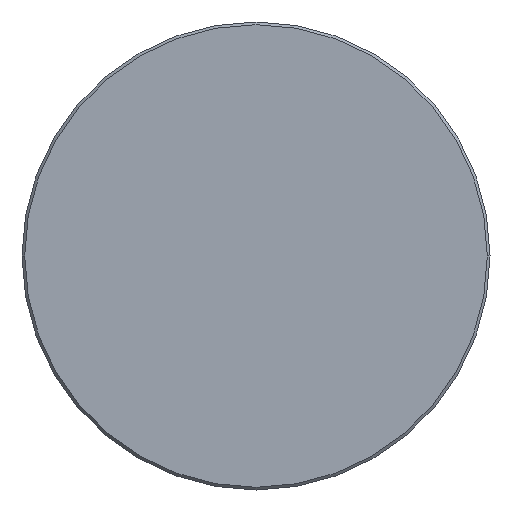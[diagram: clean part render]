
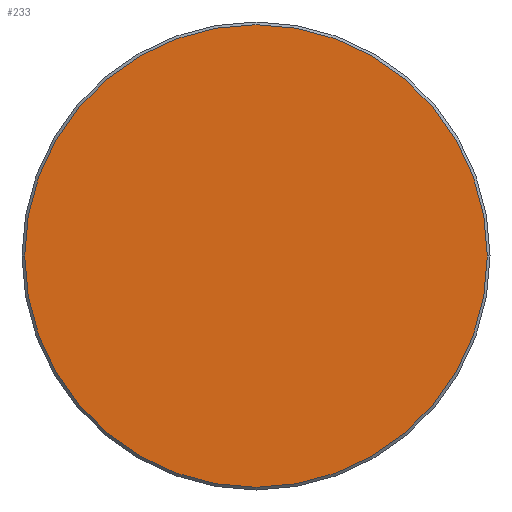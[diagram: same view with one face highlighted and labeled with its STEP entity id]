
A CAD part, left-side view. The second image highlights one B-rep face of the part: STEP entity #233.
In plain terms, the highlighted planar face has unit normal (-1, 0, 0).
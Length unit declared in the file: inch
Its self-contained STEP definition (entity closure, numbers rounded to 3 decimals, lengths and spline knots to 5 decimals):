
#17 = ORIENTED_EDGE ( 'NONE', *, *, #330, .T. ) ;
#64 = DIRECTION ( 'NONE',  ( 0., -1., 0. ) ) ;
#72 = FACE_OUTER_BOUND ( 'NONE', #273, .T. ) ;
#85 = CARTESIAN_POINT ( 'NONE',  ( 0., 0., 0. ) ) ;
#87 = CARTESIAN_POINT ( 'NONE',  ( 0., 0., 0. ) ) ;
#134 = AXIS2_PLACEMENT_3D ( 'NONE', #87, #192, #170 ) ;
#137 = DIRECTION ( 'NONE',  ( 0., -1., 0. ) ) ;
#138 = CIRCLE ( 'NONE', #333, 0.33975 ) ;
#139 = PLANE ( 'NONE',  #134 ) ;
#143 = CARTESIAN_POINT ( 'NONE',  ( 0., 0., 0. ) ) ;
#170 = DIRECTION ( 'NONE',  ( 0., -1., 0. ) ) ;
#174 = AXIS2_PLACEMENT_3D ( 'NONE', #85, #195, #137 ) ;
#192 = DIRECTION ( 'NONE',  ( -1., 0., 0. ) ) ;
#195 = DIRECTION ( 'NONE',  ( -1., 0., 0. ) ) ;
#196 = ORIENTED_EDGE ( 'NONE', *, *, #231, .T. ) ;
#202 = CARTESIAN_POINT ( 'NONE',  ( 0., -0.33975, 0. ) ) ;
#231 = EDGE_CURVE ( 'NONE', #318, #357, #344, .T. ) ;
#233 = ADVANCED_FACE ( 'NONE', ( #72 ), #139, .T. ) ;
#234 = DIRECTION ( 'NONE',  ( -1., 0., 0. ) ) ;
#265 = CARTESIAN_POINT ( 'NONE',  ( 0., 0.33975, 0. ) ) ;
#273 = EDGE_LOOP ( 'NONE', ( #17, #196 ) ) ;
#318 = VERTEX_POINT ( 'NONE', #202 ) ;
#330 = EDGE_CURVE ( 'NONE', #357, #318, #138, .T. ) ;
#333 = AXIS2_PLACEMENT_3D ( 'NONE', #143, #234, #64 ) ;
#344 = CIRCLE ( 'NONE', #174, 0.33975 ) ;
#357 = VERTEX_POINT ( 'NONE', #265 ) ;
